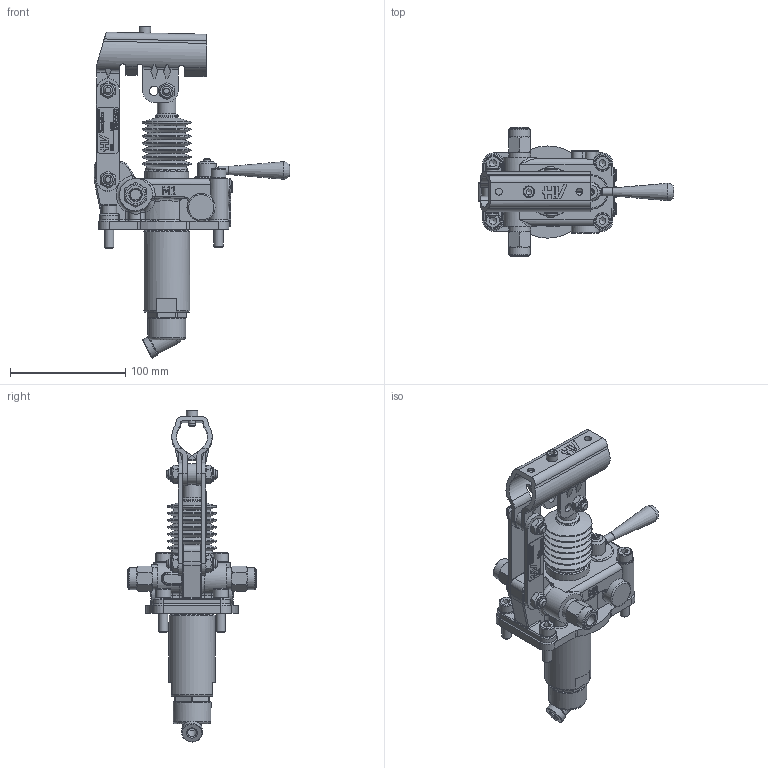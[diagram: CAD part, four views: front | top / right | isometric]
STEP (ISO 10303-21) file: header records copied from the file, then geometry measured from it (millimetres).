
FILE_DESCRIPTION((''),'2;1');
FILE_NAME('G:\HV_HYDRAULIC\AZIENDA_HV_HYDRAULIC\ARCHIVIO_DISEGNI\5_PRODOTTI_FINITI\1_POMPE_MANUALI\6062_PMDVB_45\6062.0303_PMDVB_45_ca-byB-s_(HV)\6062.0303.stp','2024-03-07T16:12:01',('christian.scardovi'),(''),'Autodesk Inventor 2013','Autodesk Inventor 2013','');
FILE_SCHEMA(('AUTOMOTIVE_DESIGN { 1 0 10303 214 1 1 1 1 }'));
Length unit declared in the file: millimetre
Products named in the file (1): 6062.0303
Bounding box: 170 x 112 x 288.31 mm (x, y, z)
Volume: 481746.8 mm3; surface area: 136930.8 mm2
Topology: 3 solids, 3 shells, 1698 faces, 4327 edges, 2742 vertices
Faces by surface type: plane 809, cylinder 382, cone 195, bspline 184, torus 115, sphere 13
Full cylindrical faces by diameter (mm): 1.2 x4, 3 x8, 4 x4, 4.917 x13, 5 x12, 6 x8, 6.5 x3, 6.917 x2, 7 x3, 8 x15, 9 x3, 9.2 x1, 10 x13, 10.376 x1, 10.5 x2, 10.917 x3, 11.05 x6, 11.445 x2, 12 x7, 13 x4, 13.2 x1, 14 x4, 14.95 x2, 15.5 x2, 15.9 x2, 16 x5, 18 x3, 19 x4, 20 x1, 21.6 x1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
Entity records: 53065 total; most frequent: CARTESIAN_POINT 14152, ORIENTED_EDGE 7654, DIRECTION 7180, EDGE_CURVE 3827, AXIS2_PLACEMENT_3D 2596, VERTEX_POINT 2580, EDGE_LOOP 2186, VECTOR 1988
